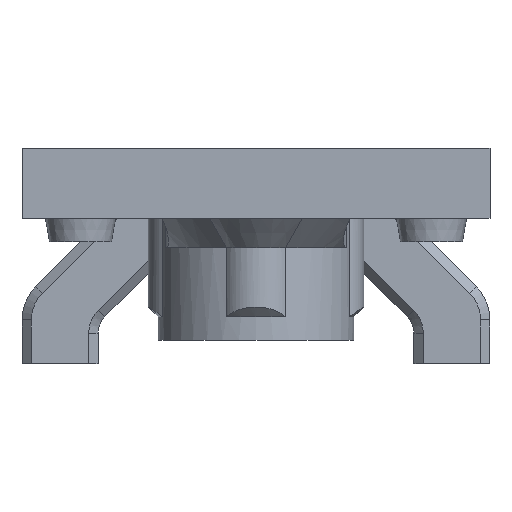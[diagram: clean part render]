
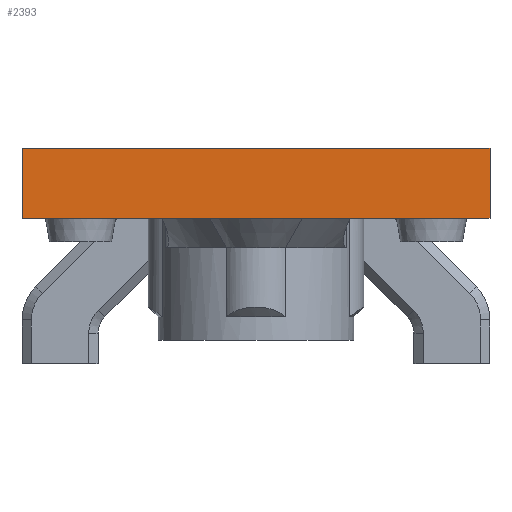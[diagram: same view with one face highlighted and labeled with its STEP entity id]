
A CAD part, front view. The second image highlights one B-rep face of the part: STEP entity #2393.
In plain terms, the highlighted planar face has unit normal (0, -1, 0).
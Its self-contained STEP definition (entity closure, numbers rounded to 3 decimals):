
#146=PLANE('',#2645);
#310=FACE_OUTER_BOUND('',#458,.T.);
#458=EDGE_LOOP('',(#2190,#2191,#2192,#2193));
#587=LINE('',#3794,#800);
#679=LINE('',#4169,#892);
#680=LINE('',#4172,#893);
#681=LINE('',#4173,#894);
#800=VECTOR('',#3001,10.);
#892=VECTOR('',#3355,10.);
#893=VECTOR('',#3358,10.);
#894=VECTOR('',#3359,10.);
#1112=VERTEX_POINT('',#3791);
#1113=VERTEX_POINT('',#3793);
#1211=VERTEX_POINT('',#4167);
#1212=VERTEX_POINT('',#4171);
#1389=EDGE_CURVE('',#1112,#1113,#587,.T.);
#1549=EDGE_CURVE('',#1112,#1211,#679,.T.);
#1550=EDGE_CURVE('',#1212,#1211,#680,.T.);
#1551=EDGE_CURVE('',#1113,#1212,#681,.T.);
#2190=ORIENTED_EDGE('',*,*,#1389,.F.);
#2191=ORIENTED_EDGE('',*,*,#1549,.T.);
#2192=ORIENTED_EDGE('',*,*,#1550,.F.);
#2193=ORIENTED_EDGE('',*,*,#1551,.F.);
#2393=ADVANCED_FACE('',(#310),#146,.T.);
#2645=AXIS2_PLACEMENT_3D('',#4170,#3356,#3357);
#3001=DIRECTION('',(-1.,0.,0.));
#3355=DIRECTION('',(0.,0.,1.));
#3356=DIRECTION('center_axis',(0.,-1.,0.));
#3357=DIRECTION('ref_axis',(1.,0.,0.));
#3358=DIRECTION('',(1.,0.,0.));
#3359=DIRECTION('',(0.,0.,1.));
#3791=CARTESIAN_POINT('',(0.,-42.533,36.875));
#3793=CARTESIAN_POINT('',(-40.,-42.533,36.875));
#3794=CARTESIAN_POINT('',(0.,-42.533,36.875));
#4167=CARTESIAN_POINT('',(0.,-42.533,42.875));
#4169=CARTESIAN_POINT('',(0.,-42.533,36.875));
#4170=CARTESIAN_POINT('Origin',(-40.,-42.533,36.875));
#4171=CARTESIAN_POINT('',(-40.,-42.533,42.875));
#4172=CARTESIAN_POINT('',(0.,-42.533,42.875));
#4173=CARTESIAN_POINT('',(-40.,-42.533,36.875));
